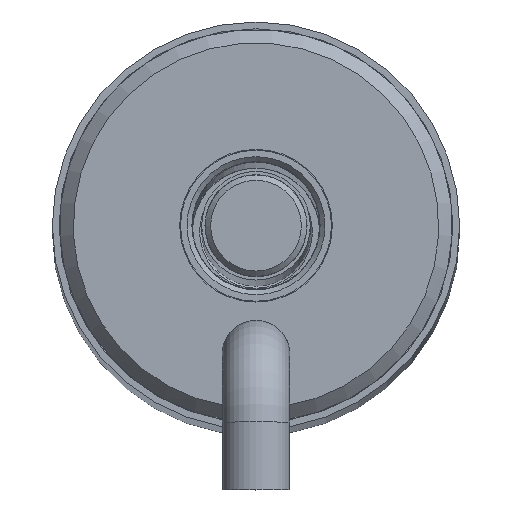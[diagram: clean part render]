
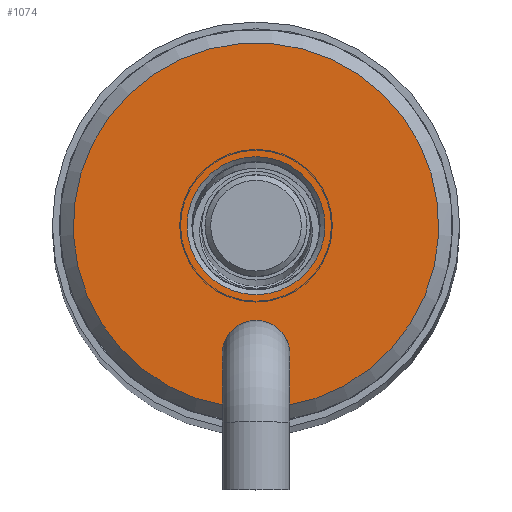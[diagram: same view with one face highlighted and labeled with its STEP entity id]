
A CAD part, top view. The second image highlights one B-rep face of the part: STEP entity #1074.
In plain terms, the highlighted planar face has unit normal (0, 0, 1).
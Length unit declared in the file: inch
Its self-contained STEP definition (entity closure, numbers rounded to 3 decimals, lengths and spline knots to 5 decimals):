
#78=FACE_BOUND('',#214,.T.);
#116=PLANE('',#1254);
#145=FACE_OUTER_BOUND('',#213,.T.);
#213=EDGE_LOOP('',(#719,#720,#721,#722,#723));
#214=EDGE_LOOP('',(#724));
#294=LINE('',#1700,#344);
#297=LINE('',#1710,#347);
#344=VECTOR('',#1401,0.3937);
#347=VECTOR('',#1406,0.3937);
#396=CIRCLE('',#1249,0.0625);
#398=CIRCLE('',#1251,0.0625);
#399=CIRCLE('',#1255,0.3365);
#400=CIRCLE('',#1256,0.127);
#448=VERTEX_POINT('',#1686);
#449=VERTEX_POINT('',#1688);
#452=VERTEX_POINT('',#1694);
#453=VERTEX_POINT('',#1699);
#456=VERTEX_POINT('',#1709);
#457=VERTEX_POINT('',#1712);
#550=EDGE_CURVE('',#449,#448,#396,.T.);
#554=EDGE_CURVE('',#448,#452,#398,.T.);
#555=EDGE_CURVE('',#453,#449,#294,.T.);
#559=EDGE_CURVE('',#452,#456,#297,.T.);
#560=EDGE_CURVE('',#453,#456,#399,.T.);
#561=EDGE_CURVE('',#457,#457,#400,.T.);
#719=ORIENTED_EDGE('',*,*,#550,.T.);
#720=ORIENTED_EDGE('',*,*,#554,.T.);
#721=ORIENTED_EDGE('',*,*,#559,.T.);
#722=ORIENTED_EDGE('',*,*,#560,.F.);
#723=ORIENTED_EDGE('',*,*,#555,.T.);
#724=ORIENTED_EDGE('',*,*,#561,.T.);
#1074=ADVANCED_FACE('',(#145,#78),#116,.T.);
#1249=AXIS2_PLACEMENT_3D('',#1689,#1389,#1390);
#1251=AXIS2_PLACEMENT_3D('',#1696,#1395,#1396);
#1254=AXIS2_PLACEMENT_3D('',#1708,#1404,#1405);
#1255=AXIS2_PLACEMENT_3D('',#1711,#1407,#1408);
#1256=AXIS2_PLACEMENT_3D('',#1713,#1409,#1410);
#1389=DIRECTION('center_axis',(0.,0.,
-1.));
#1390=DIRECTION('ref_axis',(1.,0.,0.));
#1395=DIRECTION('center_axis',(0.,0.,
-1.));
#1396=DIRECTION('ref_axis',(1.,0.,0.));
#1401=DIRECTION('',(0.,1.,0.));
#1404=DIRECTION('center_axis',(0.,0.,
1.));
#1405=DIRECTION('ref_axis',(1.,0.,0.));
#1406=DIRECTION('',(0.,-1.,0.));
#1407=DIRECTION('center_axis',(0.,0.,
-1.));
#1408=DIRECTION('ref_axis',(-1.,0.,0.));
#1409=DIRECTION('center_axis',(0.,0.,
-1.));
#1410=DIRECTION('ref_axis',(-1.,0.,0.));
#1686=CARTESIAN_POINT('',(-0.0625,-0.237,6.49));
#1688=CARTESIAN_POINT('',(-0.053,-0.27012,6.49));
#1689=CARTESIAN_POINT('Origin',(0.,-0.237,6.49));
#1694=CARTESIAN_POINT('',(0.053,-0.27012,6.49));
#1696=CARTESIAN_POINT('Origin',(0.,-0.237,6.49));
#1699=CARTESIAN_POINT('',(-0.053,-0.3323,6.49));
#1700=CARTESIAN_POINT('',(-0.053,0.04975,6.49));
#1708=CARTESIAN_POINT('Origin',(0.,0.3365,6.49));
#1709=CARTESIAN_POINT('',(0.053,-0.3323,6.49));
#1710=CARTESIAN_POINT('',(0.053,-0.01055,6.49));
#1711=CARTESIAN_POINT('Origin',(0.,0.,
6.49));
#1712=CARTESIAN_POINT('',(0.,-0.127,6.49));
#1713=CARTESIAN_POINT('Origin',(0.,0.,
6.49));
